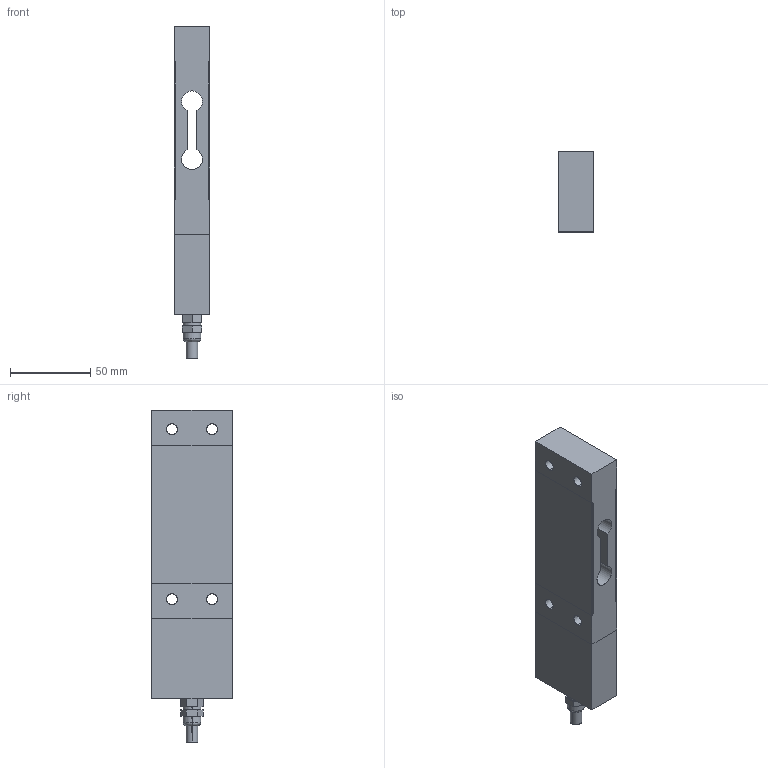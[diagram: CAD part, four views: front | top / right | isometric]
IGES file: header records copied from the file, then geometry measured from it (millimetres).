
Start section: SolidWorks IGES file using analytic representation for surfaces
Global section: file name: O:\16-Entwicklung\Projekte\Kraftsensoren\0207_KT302\01_Mechanik & Gehäuse\01_Solid Works\01_Outline 3D files\3D_KT302_1KN_komp.IGS; native system: SolidWorks 2012; preprocessor: SolidWorks 2012; author: andreb; date: 121213.094037; units: millimetre
Bounding box: 22.2 x 50 x 207 mm (x, y, z)
Surface area: 35735.1 mm2 (no closed solid volume)
Topology: 0 solids, 0 shells, 85 faces, 1072 edges, 1072 vertices
Faces by surface type: bspline 49, revolution 36
